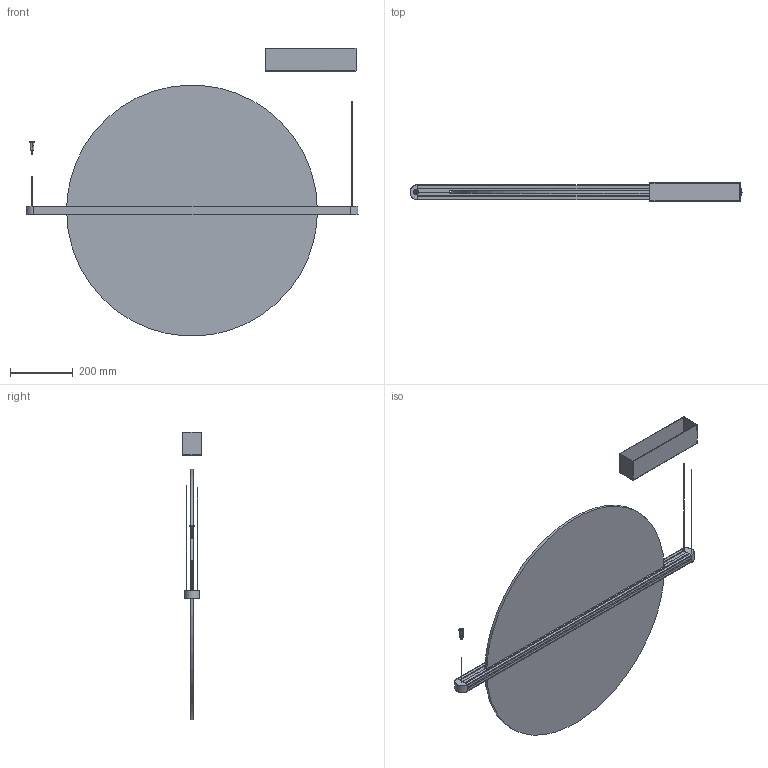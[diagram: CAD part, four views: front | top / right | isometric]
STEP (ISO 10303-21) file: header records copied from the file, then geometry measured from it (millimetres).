
FILE_DESCRIPTION(/* description */ (''),/* implementation_level */ '2;1');
FILE_NAME(/* name */ '19F6D8~1',/* time_stamp */ '2021-06-09T14:28:18+02:00',/* author */ (''),/* organization */ (''),/* preprocessor_version */ 'ST-DEVELOPER v16.5',/* originating_system */ '',/* authorisation */ '');
FILE_SCHEMA (('CONFIG_CONTROL_DESIGN'));
Length unit declared in the file: millimetre
Products named in the file (9): Document; MIN.005185; MIN.005186; MET.005568; PRE.005671; CEL.005307; PRE.005672; CEL.005307_1; PLA.005070
Assembly tree (11 placements, depth 3):
  Document
    MIN.005185
    MIN.005186
    MET.005568
    PRE.005671
      CEL.005307
    PRE.005672
      CEL.005307_1
    PLA.005070  x4
Bounding box: 1058.44 x 60 x 917.58 mm (x, y, z)
Volume: 4721546.4 mm3; surface area: 1710785.4 mm2
Topology: 19 solids, 21 shells, 569 faces, 1606 edges, 1071 vertices
Faces by surface type: plane 296, cylinder 240, bspline 33
Entity records: 17665 total; most frequent: CARTESIAN_POINT 7441, ORIENTED_EDGE 2892, EDGE_CURVE 1462, VERTEX_POINT 975, B_SPLINE_CURVE_WITH_KNOTS 942, DIRECTION 538, EDGE_LOOP 527, ADVANCED_FACE 515
